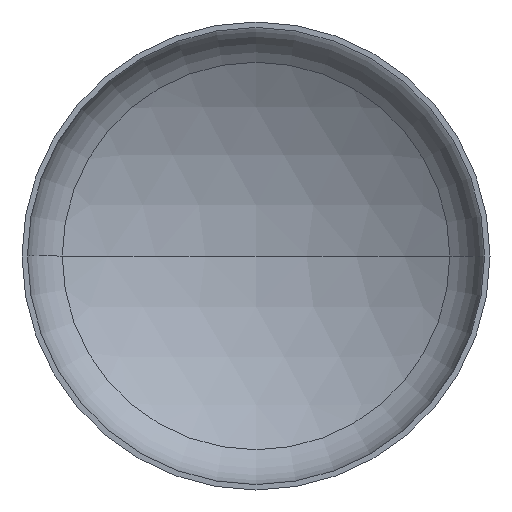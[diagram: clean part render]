
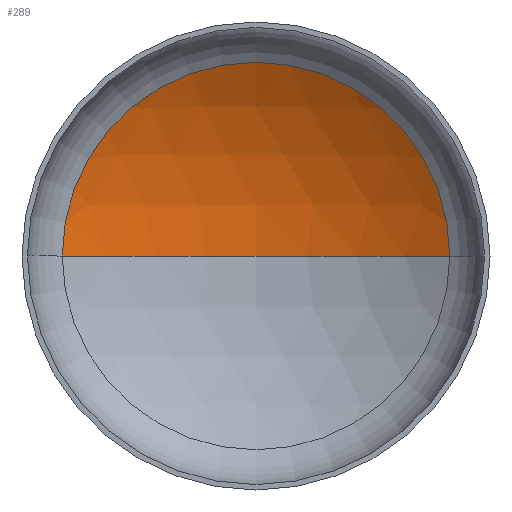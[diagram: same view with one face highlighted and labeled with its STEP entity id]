
A CAD part, front view. The second image highlights one B-rep face of the part: STEP entity #289.
In plain terms, the highlighted spherical face has radius 4800 mm.
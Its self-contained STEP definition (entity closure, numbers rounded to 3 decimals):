
#9 = EDGE_LOOP ( 'NONE', ( #24, #102, #91 ) ) ;
#24 = ORIENTED_EDGE ( 'NONE', *, *, #74, .F. ) ;
#31 = DIRECTION ( 'NONE',  ( -1., 0., 0. ) ) ;
#43 = VERTEX_POINT ( 'NONE', #215 ) ;
#66 = VERTEX_POINT ( 'NONE', #209 ) ;
#74 = EDGE_CURVE ( 'NONE', #95, #43, #390, .T. ) ;
#91 = ORIENTED_EDGE ( 'NONE', *, *, #153, .T. ) ;
#95 = VERTEX_POINT ( 'NONE', #296 ) ;
#102 = ORIENTED_EDGE ( 'NONE', *, *, #116, .T. ) ;
#104 = AXIS2_PLACEMENT_3D ( 'NONE', #407, #181, #31 ) ;
#116 = EDGE_CURVE ( 'NONE', #95, #66, #333, .T. ) ;
#128 = AXIS2_PLACEMENT_3D ( 'NONE', #303, #301, #299 ) ;
#148 = CARTESIAN_POINT ( 'NONE',  ( 0., 911.552, 0. ) ) ;
#149 = SPHERICAL_SURFACE ( 'NONE', #104, 4800. ) ;
#153 = EDGE_CURVE ( 'NONE', #66, #43, #249, .T. ) ;
#157 = DIRECTION ( 'NONE',  ( 0., -1., 0. ) ) ;
#159 = DIRECTION ( 'NONE',  ( 1., 0., 0. ) ) ;
#168 = AXIS2_PLACEMENT_3D ( 'NONE', #328, #325, #322 ) ;
#181 = DIRECTION ( 'NONE',  ( 0., 0., -1. ) ) ;
#188 = AXIS2_PLACEMENT_3D ( 'NONE', #148, #157, #159 ) ;
#209 = CARTESIAN_POINT ( 'NONE',  ( 2483.613, 911.552, 0. ) ) ;
#215 = CARTESIAN_POINT ( 'NONE',  ( -2483.613, 911.552, 0. ) ) ;
#228 = FACE_OUTER_BOUND ( 'NONE', #9, .T. ) ;
#249 = CIRCLE ( 'NONE', #188, 2483.613 ) ;
#289 = ADVANCED_FACE ( 'NONE', ( #228 ), #149, .F. ) ;
#296 = CARTESIAN_POINT ( 'NONE',  ( 0., 1604.039, 0. ) ) ;
#299 = DIRECTION ( 'NONE',  ( 1., 0., 0. ) ) ;
#301 = DIRECTION ( 'NONE',  ( 0., 0., 1. ) ) ;
#303 = CARTESIAN_POINT ( 'NONE',  ( 0., -3195.961, 0. ) ) ;
#322 = DIRECTION ( 'NONE',  ( -1., 0., 0. ) ) ;
#325 = DIRECTION ( 'NONE',  ( 0., 0., -1. ) ) ;
#328 = CARTESIAN_POINT ( 'NONE',  ( 0., -3195.961, 0. ) ) ;
#333 = CIRCLE ( 'NONE', #168, 4800. ) ;
#390 = CIRCLE ( 'NONE', #128, 4800. ) ;
#407 = CARTESIAN_POINT ( 'NONE',  ( 0., -3195.961, 0. ) ) ;
